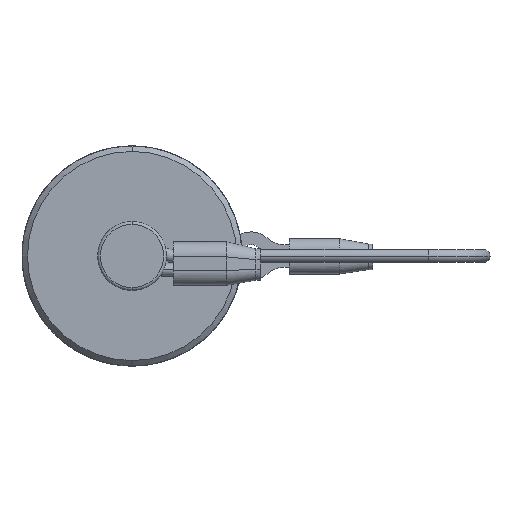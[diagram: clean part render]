
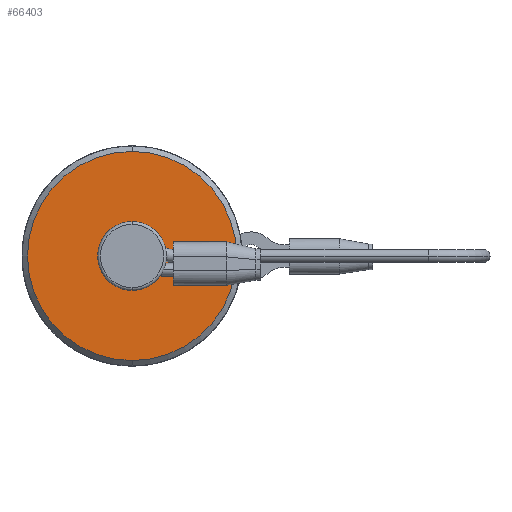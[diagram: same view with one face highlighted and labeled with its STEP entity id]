
A CAD part, left-side view. The second image highlights one B-rep face of the part: STEP entity #66403.
In plain terms, the highlighted planar face has unit normal (-1, 0, 0).
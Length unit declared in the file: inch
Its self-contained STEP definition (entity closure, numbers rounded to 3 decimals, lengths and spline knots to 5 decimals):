
#421 = CARTESIAN_POINT ( 'NONE',  ( 0.25, 0., -0.7585 ) ) ;
#859 = DIRECTION ( 'NONE',  ( 1., 0., 0. ) ) ;
#4021 = AXIS2_PLACEMENT_3D ( 'NONE', #51868, #36616, #37111 ) ;
#8930 = DIRECTION ( 'NONE',  ( 0., 0., -1. ) ) ;
#12099 = ORIENTED_EDGE ( 'NONE', *, *, #39057, .F. ) ;
#14593 = EDGE_CURVE ( 'NONE', #74110, #64033, #77999, .T. ) ;
#18349 = EDGE_CURVE ( 'NONE', #32871, #41122, #88778, .T. ) ;
#21570 = AXIS2_PLACEMENT_3D ( 'NONE', #38602, #859, #8930 ) ;
#23069 = AXIS2_PLACEMENT_3D ( 'NONE', #35477, #64592, #48823 ) ;
#26600 = EDGE_LOOP ( 'NONE', ( #12099, #82290 ) ) ;
#26619 = ORIENTED_EDGE ( 'NONE', *, *, #27169, .T. ) ;
#27169 = EDGE_CURVE ( 'NONE', #41122, #32871, #67906, .T. ) ;
#28972 = DIRECTION ( 'NONE',  ( 0., 0., -1. ) ) ;
#32871 = VERTEX_POINT ( 'NONE', #41338 ) ;
#33793 = AXIS2_PLACEMENT_3D ( 'NONE', #71345, #86226, #42715 ) ;
#35477 = CARTESIAN_POINT ( 'NONE',  ( 0.25, 0., 0. ) ) ;
#36616 = DIRECTION ( 'NONE',  ( -1., 0., 0. ) ) ;
#37111 = DIRECTION ( 'NONE',  ( 0., 0., 1. ) ) ;
#38602 = CARTESIAN_POINT ( 'NONE',  ( 0.25, 0., 0. ) ) ;
#39057 = EDGE_CURVE ( 'NONE', #64033, #74110, #49271, .T. ) ;
#41122 = VERTEX_POINT ( 'NONE', #52416 ) ;
#41338 = CARTESIAN_POINT ( 'NONE',  ( 0.25, 0., -0.25 ) ) ;
#42715 = DIRECTION ( 'NONE',  ( 0., 0., -1. ) ) ;
#48823 = DIRECTION ( 'NONE',  ( 0., 0., -1. ) ) ;
#49168 = ORIENTED_EDGE ( 'NONE', *, *, #18349, .T. ) ;
#49271 = CIRCLE ( 'NONE', #73666, 0.7585 ) ;
#51868 = CARTESIAN_POINT ( 'NONE',  ( 0.25, 0.7585, 0. ) ) ;
#52416 = CARTESIAN_POINT ( 'NONE',  ( 0.25, 0., 0.25 ) ) ;
#56326 = PLANE ( 'NONE',  #4021 ) ;
#56795 = FACE_OUTER_BOUND ( 'NONE', #26600, .T. ) ;
#63944 = CARTESIAN_POINT ( 'NONE',  ( 0.25, 0., 0.7585 ) ) ;
#64033 = VERTEX_POINT ( 'NONE', #421 ) ;
#64283 = CARTESIAN_POINT ( 'NONE',  ( 0.25, 0., 0. ) ) ;
#64592 = DIRECTION ( 'NONE',  ( 1., 0., 0. ) ) ;
#66230 = FACE_BOUND ( 'NONE', #83075, .T. ) ;
#66403 = ADVANCED_FACE ( 'NONE', ( #66230, #56795 ), #56326, .T. ) ;
#67906 = CIRCLE ( 'NONE', #23069, 0.25 ) ;
#71345 = CARTESIAN_POINT ( 'NONE',  ( 0.25, 0., 0. ) ) ;
#73666 = AXIS2_PLACEMENT_3D ( 'NONE', #64283, #85832, #28972 ) ;
#74110 = VERTEX_POINT ( 'NONE', #63944 ) ;
#77999 = CIRCLE ( 'NONE', #33793, 0.7585 ) ;
#82290 = ORIENTED_EDGE ( 'NONE', *, *, #14593, .F. ) ;
#83075 = EDGE_LOOP ( 'NONE', ( #49168, #26619 ) ) ;
#85832 = DIRECTION ( 'NONE',  ( 1., 0., 0. ) ) ;
#86226 = DIRECTION ( 'NONE',  ( 1., 0., 0. ) ) ;
#88778 = CIRCLE ( 'NONE', #21570, 0.25 ) ;
